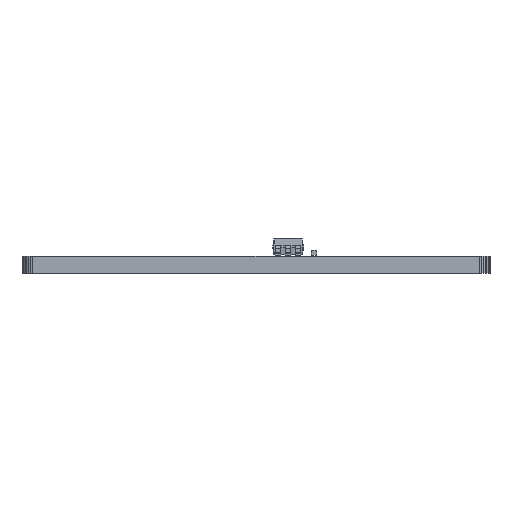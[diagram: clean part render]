
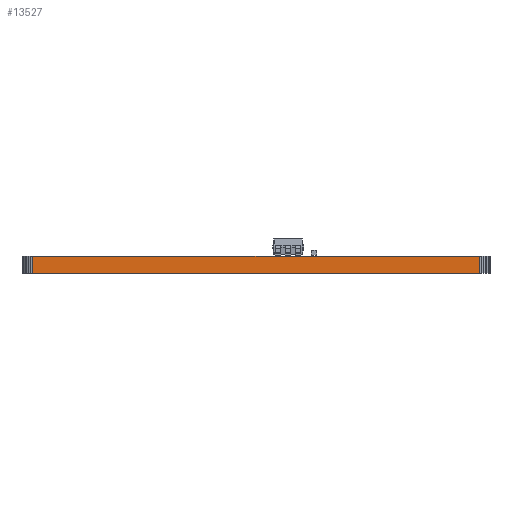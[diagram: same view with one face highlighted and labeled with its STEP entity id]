
A CAD part, front view. The second image highlights one B-rep face of the part: STEP entity #13527.
In plain terms, the highlighted planar face has unit normal (0, -1, 0).
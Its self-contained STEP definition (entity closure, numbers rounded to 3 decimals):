
#10600 = PLANE('',#10601);
#10601 = AXIS2_PLACEMENT_3D('',#10602,#10603,#10604);
#10602 = CARTESIAN_POINT('',(2.107,-1.919,1.6));
#10603 = DIRECTION('',(-0.,-0.,-1.));
#10604 = DIRECTION('',(-1.,0.,0.));
#10654 = PLANE('',#10655);
#10655 = AXIS2_PLACEMENT_3D('',#10656,#10657,#10658);
#10656 = CARTESIAN_POINT('',(2.107,-1.919,0.));
#10657 = DIRECTION('',(-0.,-0.,-1.));
#10658 = DIRECTION('',(-1.,0.,0.));
#11183 = VERTEX_POINT('',#11184);
#11184 = CARTESIAN_POINT('',(21.,-17.,0.));
#11198 = PLANE('',#11199);
#11199 = AXIS2_PLACEMENT_3D('',#11200,#11201,#11202);
#11200 = CARTESIAN_POINT('',(21.195,-16.981,0.));
#11201 = DIRECTION('',(0.098,-0.995,0.));
#11202 = DIRECTION('',(-0.995,-0.098,0.));
#11210 = EDGE_CURVE('',#11183,#11211,#11213,.T.);
#11211 = VERTEX_POINT('',#11212);
#11212 = CARTESIAN_POINT('',(-21.,-17.,0.));
#11213 = SURFACE_CURVE('',#11214,(#11218,#11225),.PCURVE_S1.);
#11214 = LINE('',#11215,#11216);
#11215 = CARTESIAN_POINT('',(21.,-17.,0.));
#11216 = VECTOR('',#11217,1.);
#11217 = DIRECTION('',(-1.,0.,0.));
#11218 = PCURVE('',#10654,#11219);
#11219 = DEFINITIONAL_REPRESENTATION('',(#11220),#11224);
#11220 = LINE('',#11221,#11222);
#11221 = CARTESIAN_POINT('',(-18.893,-15.081));
#11222 = VECTOR('',#11223,1.);
#11223 = DIRECTION('',(1.,0.));
#11224 = ( GEOMETRIC_REPRESENTATION_CONTEXT(2) 
PARAMETRIC_REPRESENTATION_CONTEXT() REPRESENTATION_CONTEXT('2D SPACE',''
  ) );
#11225 = PCURVE('',#11226,#11231);
#11226 = PLANE('',#11227);
#11227 = AXIS2_PLACEMENT_3D('',#11228,#11229,#11230);
#11228 = CARTESIAN_POINT('',(21.,-17.,0.));
#11229 = DIRECTION('',(0.,-1.,0.));
#11230 = DIRECTION('',(-1.,0.,0.));
#11231 = DEFINITIONAL_REPRESENTATION('',(#11232),#11236);
#11232 = LINE('',#11233,#11234);
#11233 = CARTESIAN_POINT('',(0.,-0.));
#11234 = VECTOR('',#11235,1.);
#11235 = DIRECTION('',(1.,0.));
#11236 = ( GEOMETRIC_REPRESENTATION_CONTEXT(2) 
PARAMETRIC_REPRESENTATION_CONTEXT() REPRESENTATION_CONTEXT('2D SPACE',''
  ) );
#11254 = PLANE('',#11255);
#11255 = AXIS2_PLACEMENT_3D('',#11256,#11257,#11258);
#11256 = CARTESIAN_POINT('',(-21.,-17.,0.));
#11257 = DIRECTION('',(-0.098,-0.995,0.));
#11258 = DIRECTION('',(-0.995,0.098,0.));
#12174 = VERTEX_POINT('',#12175);
#12175 = CARTESIAN_POINT('',(21.,-17.,1.6));
#12196 = EDGE_CURVE('',#12174,#12197,#12199,.T.);
#12197 = VERTEX_POINT('',#12198);
#12198 = CARTESIAN_POINT('',(-21.,-17.,1.6));
#12199 = SURFACE_CURVE('',#12200,(#12204,#12211),.PCURVE_S1.);
#12200 = LINE('',#12201,#12202);
#12201 = CARTESIAN_POINT('',(21.,-17.,1.6));
#12202 = VECTOR('',#12203,1.);
#12203 = DIRECTION('',(-1.,0.,0.));
#12204 = PCURVE('',#10600,#12205);
#12205 = DEFINITIONAL_REPRESENTATION('',(#12206),#12210);
#12206 = LINE('',#12207,#12208);
#12207 = CARTESIAN_POINT('',(-18.893,-15.081));
#12208 = VECTOR('',#12209,1.);
#12209 = DIRECTION('',(1.,0.));
#12210 = ( GEOMETRIC_REPRESENTATION_CONTEXT(2) 
PARAMETRIC_REPRESENTATION_CONTEXT() REPRESENTATION_CONTEXT('2D SPACE',''
  ) );
#12211 = PCURVE('',#11226,#12212);
#12212 = DEFINITIONAL_REPRESENTATION('',(#12213),#12217);
#12213 = LINE('',#12214,#12215);
#12214 = CARTESIAN_POINT('',(0.,-1.6));
#12215 = VECTOR('',#12216,1.);
#12216 = DIRECTION('',(1.,0.));
#12217 = ( GEOMETRIC_REPRESENTATION_CONTEXT(2) 
PARAMETRIC_REPRESENTATION_CONTEXT() REPRESENTATION_CONTEXT('2D SPACE',''
  ) );
#13479 = EDGE_CURVE('',#11183,#12174,#13480,.T.);
#13480 = SURFACE_CURVE('',#13481,(#13485,#13492),.PCURVE_S1.);
#13481 = LINE('',#13482,#13483);
#13482 = CARTESIAN_POINT('',(21.,-17.,0.));
#13483 = VECTOR('',#13484,1.);
#13484 = DIRECTION('',(0.,0.,1.));
#13485 = PCURVE('',#11198,#13486);
#13486 = DEFINITIONAL_REPRESENTATION('',(#13487),#13491);
#13487 = LINE('',#13488,#13489);
#13488 = CARTESIAN_POINT('',(0.196,0.));
#13489 = VECTOR('',#13490,1.);
#13490 = DIRECTION('',(0.,-1.));
#13491 = ( GEOMETRIC_REPRESENTATION_CONTEXT(2) 
PARAMETRIC_REPRESENTATION_CONTEXT() REPRESENTATION_CONTEXT('2D SPACE',''
  ) );
#13492 = PCURVE('',#11226,#13493);
#13493 = DEFINITIONAL_REPRESENTATION('',(#13494),#13498);
#13494 = LINE('',#13495,#13496);
#13495 = CARTESIAN_POINT('',(0.,-0.));
#13496 = VECTOR('',#13497,1.);
#13497 = DIRECTION('',(0.,-1.));
#13498 = ( GEOMETRIC_REPRESENTATION_CONTEXT(2) 
PARAMETRIC_REPRESENTATION_CONTEXT() REPRESENTATION_CONTEXT('2D SPACE',''
  ) );
#13527 = ADVANCED_FACE('',(#13528),#11226,.T.);
#13528 = FACE_BOUND('',#13529,.T.);
#13529 = EDGE_LOOP('',(#13530,#13531,#13532,#13553));
#13530 = ORIENTED_EDGE('',*,*,#13479,.T.);
#13531 = ORIENTED_EDGE('',*,*,#12196,.T.);
#13532 = ORIENTED_EDGE('',*,*,#13533,.F.);
#13533 = EDGE_CURVE('',#11211,#12197,#13534,.T.);
#13534 = SURFACE_CURVE('',#13535,(#13539,#13546),.PCURVE_S1.);
#13535 = LINE('',#13536,#13537);
#13536 = CARTESIAN_POINT('',(-21.,-17.,0.));
#13537 = VECTOR('',#13538,1.);
#13538 = DIRECTION('',(0.,0.,1.));
#13539 = PCURVE('',#11226,#13540);
#13540 = DEFINITIONAL_REPRESENTATION('',(#13541),#13545);
#13541 = LINE('',#13542,#13543);
#13542 = CARTESIAN_POINT('',(42.,0.));
#13543 = VECTOR('',#13544,1.);
#13544 = DIRECTION('',(0.,-1.));
#13545 = ( GEOMETRIC_REPRESENTATION_CONTEXT(2) 
PARAMETRIC_REPRESENTATION_CONTEXT() REPRESENTATION_CONTEXT('2D SPACE',''
  ) );
#13546 = PCURVE('',#11254,#13547);
#13547 = DEFINITIONAL_REPRESENTATION('',(#13548),#13552);
#13548 = LINE('',#13549,#13550);
#13549 = CARTESIAN_POINT('',(0.,0.));
#13550 = VECTOR('',#13551,1.);
#13551 = DIRECTION('',(0.,-1.));
#13552 = ( GEOMETRIC_REPRESENTATION_CONTEXT(2) 
PARAMETRIC_REPRESENTATION_CONTEXT() REPRESENTATION_CONTEXT('2D SPACE',''
  ) );
#13553 = ORIENTED_EDGE('',*,*,#11210,.F.);
